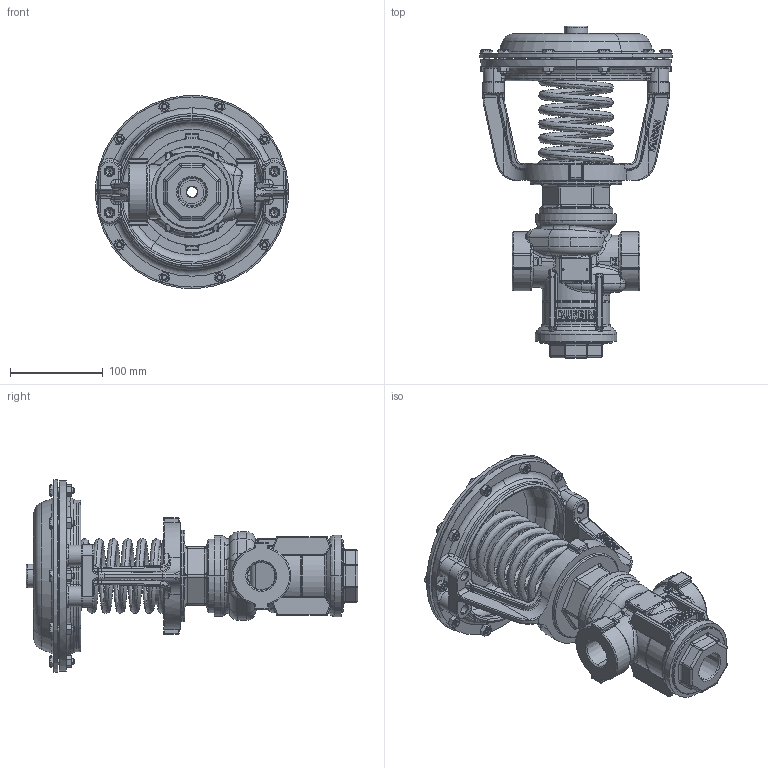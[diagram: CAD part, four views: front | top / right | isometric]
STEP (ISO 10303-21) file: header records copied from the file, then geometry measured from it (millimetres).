
FILE_DESCRIPTION (( 'STEP AP203' ), '1' );
FILE_NAME ('1.00-1.25 3W SM NPT SC500-STEP.STEP', '2018-11-07T14:58:55', ( '' ), ( '' ), 'SwSTEP 2.0', 'SolidWorks 2012', '' );
FILE_SCHEMA (( 'CONFIG_CONTROL_DESIGN' ));
Products named in the file (13): 1.00-1.25 3W SM NPT SC500-STEP; H060-03; H096-10; C713-004D; D293-147DR; C293-091DR; D771; C293-091DM; C893-048D-SS; C213-175D-SS; C093-149D-SS; C013-009D-SS; D283-185D-SS
Assembly tree (30 placements, depth 3):
  1.00-1.25 3W SM NPT SC500-STEP
    D283-185D-SS
    C013-009D-SS
    C093-149D-SS
    C213-175D-SS
    C893-048D-SS
    C293-091DR
      C293-091DM
      D771
    D293-147DR
    C713-004D
    H096-10  x10
    H060-03  x10
Bounding box: 207.77 x 357.86 x 207.77 mm (x, y, z)
Volume: 1413534.9 mm3; surface area: 443628.8 mm2
Topology: 29 solids, 29 shells, 3849 faces, 9098 edges, 5313 vertices
Faces by surface type: plane 987, cylinder 826, bspline 727, cone 587, torus 390, sphere 332
Entity records: 140680 total; most frequent: CARTESIAN_POINT 74890, ORIENTED_EDGE 14116, DIRECTION 12420, EDGE_CURVE 7058, AXIS2_PLACEMENT_3D 4990, VERTEX_POINT 4323, EDGE_LOOP 3079, FACE_OUTER_BOUND 2877
